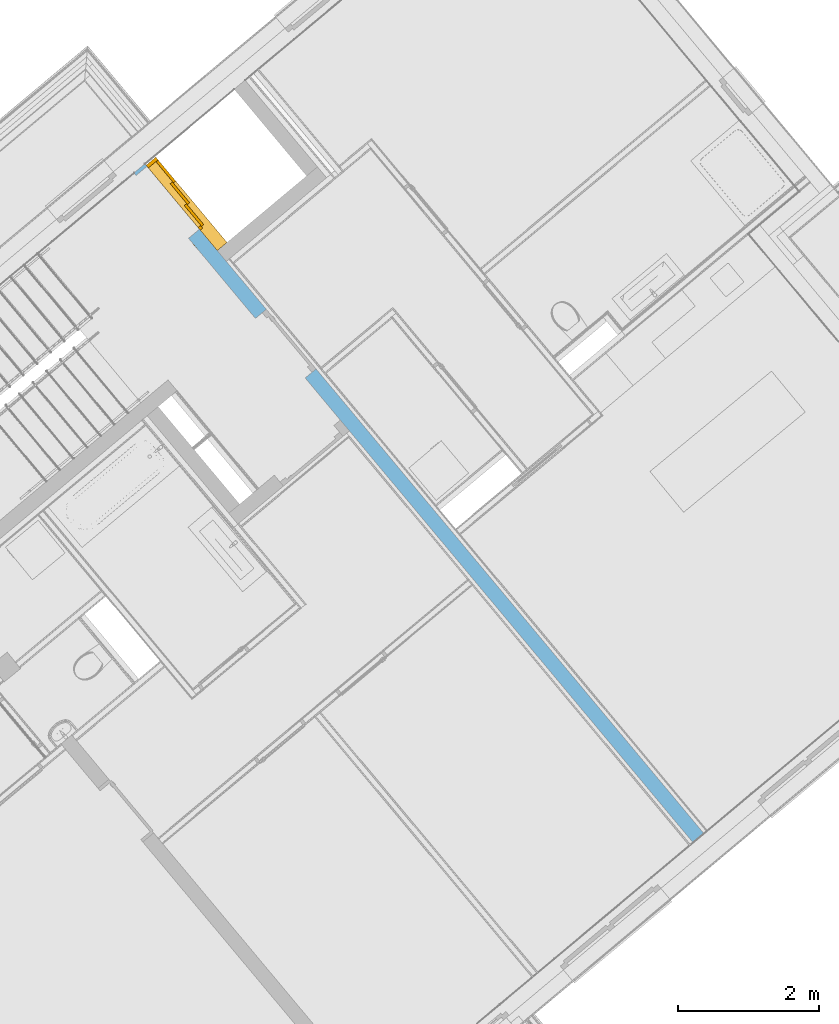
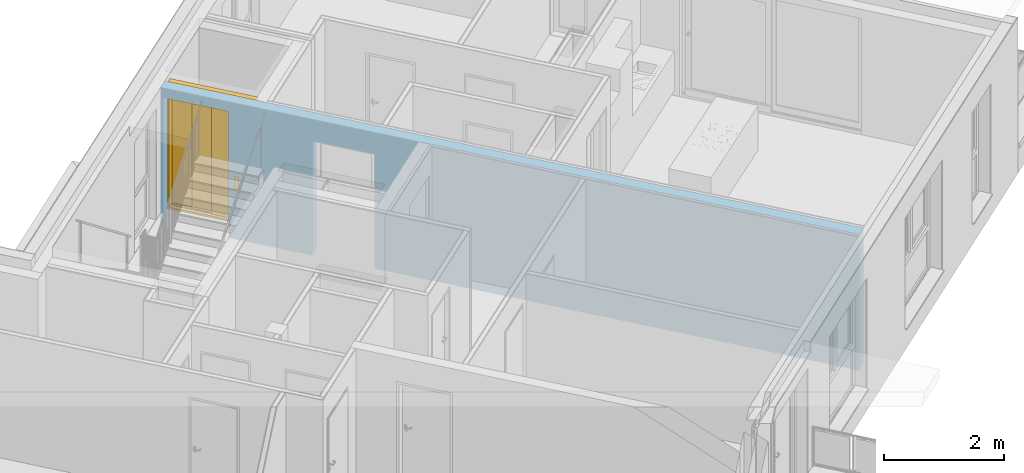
# One storey, part 9 of 53: 1 door, 2 openings, plus 1 element that does not belong to this part.
"""IFC4 building model written with IfcOpenShell, lengths in metres."""

from ifc_helpers import new_model, entity, si_unit, converted_unit, derived_unit, direction, frame, origin_with_axes, place, context, subcontext, project, spatial, polygons, source, transform, mapped, material, type_object, element, fill, save


model = new_model("IFC4")

# Units and contexts
model_context = context("Model", 3, precision=1e-05, world=origin_with_axes(), true_north=direction((0.0, 1.0)))
body_context = subcontext(model_context, "Body", "Model", "MODEL_VIEW")
ifc_project = project(units=[si_unit("LENGTHUNIT", "METRE"), si_unit("AREAUNIT", "SQUARE_METRE"), si_unit("VOLUMEUNIT", "CUBIC_METRE"), converted_unit("PLANEANGLEUNIT", "DEGREE", entity("IfcPlaneAngleMeasure", 0.0174532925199), si_unit("PLANEANGLEUNIT", "RADIAN"), dimensions=[0, 0, 0, 0, 0, 0, 0]), converted_unit("TIMEUNIT", "Year", entity("IfcTimeMeasure", 31556926.0), si_unit("TIMEUNIT", "SECOND"), dimensions=[0, 0, 1, 0, 0, 0, 0]), si_unit("MASSUNIT", "GRAM", prefix="KILO"), si_unit("THERMODYNAMICTEMPERATUREUNIT", "DEGREE_CELSIUS"), si_unit("LUMINOUSINTENSITYUNIT", "LUMEN"), si_unit("ENERGYUNIT", "JOULE", prefix="MEGA"), derived_unit("THERMALCONDUCTANCEUNIT", [(si_unit("POWERUNIT", "WATT"), 1), (si_unit("LENGTHUNIT", "METRE"), -1), (si_unit("THERMODYNAMICTEMPERATUREUNIT", "KELVIN"), -1)]), derived_unit("SPECIFICHEATCAPACITYUNIT", [(si_unit("ENERGYUNIT", "JOULE"), 1), (si_unit("MASSUNIT", "GRAM", prefix="KILO"), -1), (si_unit("THERMODYNAMICTEMPERATUREUNIT", "KELVIN"), -1)]), derived_unit("MASSDENSITYUNIT", [(si_unit("MASSUNIT", "GRAM", prefix="KILO"), 1), (si_unit("VOLUMEUNIT", "CUBIC_METRE"), -1)])], contexts=[model_context])

# Site, building, storey
site_placement = place(None, frame((-0.00153261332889, -0.00661245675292, 0.0), z_axis=(0.0, 0.0, 1.0), x_axis=(1.0, 0.0, 0.0)))
site = spatial("IfcSite", under=ifc_project, at=site_placement, Name="Gelände", CompositionType="ELEMENT")
building_placement = place(site_placement, origin_with_axes())
building = spatial("IfcBuilding", under=site, at=building_placement, Name="Gebäude", CompositionType="ELEMENT")
storey_placement = place(building_placement, frame((0.0, 0.0, 2.74), z_axis=(0.0, 0.0, 1.0), x_axis=(1.0, 0.0, 0.0)))
storey = spatial("IfcBuildingStorey", under=building, at=storey_placement, Name="OG1", CompositionType="ELEMENT", Elevation=2.74)

# Wall, openings, door
ifc_material = material(Name="Stahlbeton Wand")
wall_type = type_object("IfcWallType", Name="Stahlbeton Wand 200", PredefinedType="NOTDEFINED")
wall_placement = place(storey_placement, frame((8.26096619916, 16.5219342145, 0.0), z_axis=(0.0, 0.0, 1.0), x_axis=(-0.640845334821, 0.767670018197, 0.0)))
wall = element("IfcWall", 1, at=wall_placement, inside=storey, type_object=wall_type, material=ifc_material, Name="Wand-003", PredefinedType="NOTDEFINED", context=body_context, shape_type="Tessellation", body=[
    polygons([(12.3191850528, 4.58202684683e-08, 2.57), (12.3191850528, 9.38576505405e-09, 0.22), (12.3191850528, 9.38576505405e-09, 0.0), (12.3653297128, 0.0, 0.0), (12.3653297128, 0.0, 2.76), (0.0, 0.0, 2.76), (0.0, 0.0, 0.0), (8.58020969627, 4.58202684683e-08, 0.0), (8.58020969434, 4.58202684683e-08, 0.22), (8.58020969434, 4.5820272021e-08, 2.32), (9.68020969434, 4.5820272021e-08, 2.32), (9.68020969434, 1.84487696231e-08, 0.22), (9.68020969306, 1.84487696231e-08, 0.0), (11.1591850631, 4.1292480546e-10, 0.0), (11.1591850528, 4.1292480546e-10, 0.22), (11.1591850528, 4.5820272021e-08, 2.57), (12.3191850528, 0.2, 2.57), (12.3191850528, 0.2, 0.22), (12.3191850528, 0.2, 0.0), (12.3652348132, 0.2, 0.0), (12.3652348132, 0.2, 2.76), (0.0, 0.2, 2.76), (0.0, 0.2, 0.0), (8.58020969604, 0.2, 0.0), (8.58020969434, 0.2, 0.22), (8.58020969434, 0.075, 0.22), (8.58020969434, 0.2, 2.32), (9.68020969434, 0.2, 2.32), (9.68020969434, 0.2, 0.22), (9.68020969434, 0.075, 0.22), (9.68020969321, 0.2, 0.0), (11.1591850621, 0.2, 0.0), (11.1591850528, 0.2, 0.22), (11.1591850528, 0.2, 2.57)], [[[1, 2, 3, 4, 5, 6, 7, 8, 9, 10, 11, 12, 13, 14, 15, 16]], [[2, 1, 17, 18]], [[2, 18, 19, 3]], [[20, 4, 3, 19]], [[20, 21, 5, 4]], [[21, 22, 6, 5]], [[23, 7, 6, 22]], [[7, 23, 24, 8]], [[8, 24, 25, 26, 9]], [[26, 25, 27, 10, 9]], [[10, 27, 28, 11]], [[11, 28, 29, 30, 12]], [[29, 31, 13, 12, 30]], [[13, 31, 32, 14]], [[33, 15, 14, 32]], [[16, 15, 33, 34]], [[1, 16, 34, 17]], [[34, 33, 32, 31, 29, 28, 27, 25, 24, 23, 22, 21, 20, 19, 18, 17]]], closed=True),
])
opening_1_placement = place(wall_placement, frame((9.13020969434, 0.0, 0.22), z_axis=(0.0, 0.0, 1.0), x_axis=(1.0, 0.0, 0.0)))
element("IfcOpeningElement", 2, at=opening_1_placement, cuts=wall, Name="Tür-001", context=body_context, identifier="Reference", shape_type="Tessellation", body=[
    polygons([(-0.55, 0.075, -0.22), (-0.55, 0.075, 2.1), (-0.55, 6.48838227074, 2.1), (-0.55, 6.48838227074, -0.22), (-0.55, -6.28838227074, -0.22), (-0.55, -6.28838227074, 2.1), (0.55, 0.075, 2.1), (0.55, 6.48838227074, 2.1), (0.55, -6.28838227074, 2.1), (0.55, 6.48838227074, -0.22), (0.55, 0.075, -0.22), (0.55, -6.28838227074, -0.22)], [[[1, 2, 3, 4]], [[2, 1, 5, 6]], [[7, 8, 3, 2, 6, 9]], [[8, 10, 4, 3]], [[1, 4, 10, 11, 12, 5]], [[6, 5, 12, 9]], [[7, 11, 10, 8]], [[11, 7, 9, 12]]], closed=True),
])
opening_2_placement = place(wall_placement, frame((11.7391850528, 0.0, 0.22), z_axis=(0.0, 0.0, 1.0), x_axis=(1.0, 0.0, 0.0)))
opening_2 = element("IfcOpeningElement", 3, at=opening_2_placement, cuts=wall, Name="Tür-003", context=body_context, identifier="Reference", shape_type="Tessellation", body=[
    polygons([(0.58, 6.48838227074, 2.35), (0.58, 6.48838227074, -0.22), (-0.58, 6.48838227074, -0.22), (-0.58, 6.48838227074, 2.35), (0.58, -6.28838227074, 2.35), (0.58, -6.28838227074, -0.22), (-0.58, -6.28838227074, -0.22), (-0.58, -6.28838227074, 2.35)], [[[1, 2, 3, 4]], [[5, 6, 2, 1]], [[6, 7, 3, 2]], [[7, 8, 4, 3]], [[8, 5, 1, 4]], [[7, 6, 5, 8]]], closed=True),
])
door_type = type_object("IfcDoorType", Name="Teleskoptür 26", OperationType="DOUBLE_DOOR_SLIDING", PredefinedType="NOTDEFINED")
shared_shape = source(origin_with_axes(), body_context, "Body", "Tessellation", [
    polygons([(0.975, 0.135, 2.2), (-0.6, 0.135, 2.2), (-0.6, 0.135, 2.238), (0.975, 0.135, 2.238), (0.975, 0.0, 2.2), (-0.6, 0.0, 2.2), (-0.6, 0.0, 2.48), (-0.6, 0.18, 2.48), (-0.6, 0.18, 2.477), (-0.6, 0.003, 2.477), (-0.6, 0.003, 2.203), (-0.6, 0.132, 2.203), (-0.6, 0.132, 2.238), (0.975, 0.132, 2.238), (0.975, 0.132, 2.203), (0.975, 0.003, 2.203), (0.975, 0.003, 2.477), (0.975, 0.18, 2.477), (0.975, 0.18, 2.48), (0.975, 0.0, 2.48)], [[[1, 2, 3, 4]], [[5, 6, 2, 1]], [[2, 6, 7, 8, 9, 10, 11, 12, 13, 3]], [[4, 3, 13, 14]], [[1, 4, 14, 15, 16, 17, 18, 19, 20, 5]], [[20, 7, 6, 5]], [[19, 8, 7, 20]], [[18, 9, 8, 19]], [[17, 10, 9, 18]], [[16, 11, 10, 17]], [[15, 12, 11, 16]], [[14, 13, 12, 15]]], closed=True),
    polygons([(0.975, 0.05, 2.203), (-0.6, 0.05, 2.203), (-0.6, 0.055, 2.203), (0.975, 0.055, 2.203), (0.975, 0.05, 2.44), (-0.6, 0.05, 2.44), (-0.6, 0.055, 2.44), (0.975, 0.055, 2.44)], [[[1, 2, 3, 4]], [[5, 6, 2, 1]], [[2, 6, 7, 3]], [[4, 3, 7, 8]], [[1, 4, 8, 5]], [[8, 7, 6, 5]]], closed=True),
    polygons([(0.975, 0.05, 2.43), (-0.6, 0.05, 2.43), (-0.6, 0.04, 2.43), (0.975, 0.04, 2.43), (0.975, 0.05, 2.37), (-0.6, 0.05, 2.37), (-0.6, 0.04, 2.37), (0.975, 0.04, 2.37)], [[[1, 2, 3, 4]], [[5, 6, 2, 1]], [[2, 6, 7, 3]], [[4, 3, 7, 8]], [[1, 4, 8, 5]], [[8, 7, 6, 5]]], closed=True),
    polygons([(0.975, 0.05, 2.3), (-0.6, 0.05, 2.3), (-0.6, 0.04, 2.3), (0.975, 0.04, 2.3), (0.975, 0.05, 2.26), (-0.6, 0.05, 2.26), (-0.6, 0.04, 2.26), (0.975, 0.04, 2.26)], [[[1, 2, 3, 4]], [[5, 6, 2, 1]], [[2, 6, 7, 3]], [[4, 3, 7, 8]], [[1, 4, 8, 5]], [[8, 7, 6, 5]]], closed=True),
    polygons([(0.975, 0.05, 2.37), (-0.6, 0.05, 2.37), (-0.6, 0.03, 2.37), (0.975, 0.03, 2.37), (0.975, 0.05, 2.3), (-0.6, 0.05, 2.3), (-0.6, 0.03, 2.3), (0.975, 0.03, 2.3)], [[[1, 2, 3, 4]], [[5, 6, 2, 1]], [[2, 6, 7, 3]], [[4, 3, 7, 8]], [[1, 4, 8, 5]], [[8, 7, 6, 5]]], closed=True),
    polygons([(0.975, 0.095, 2.203), (-0.6, 0.095, 2.203), (-0.6, 0.1, 2.203), (0.975, 0.1, 2.203), (0.975, 0.095, 2.44), (-0.6, 0.095, 2.44), (-0.6, 0.1, 2.44), (0.975, 0.1, 2.44)], [[[1, 2, 3, 4]], [[5, 6, 2, 1]], [[2, 6, 7, 3]], [[4, 3, 7, 8]], [[1, 4, 8, 5]], [[8, 7, 6, 5]]], closed=True),
    polygons([(0.975, 0.095, 2.43), (-0.6, 0.095, 2.43), (-0.6, 0.085, 2.43), (0.975, 0.085, 2.43), (0.975, 0.095, 2.37), (-0.6, 0.095, 2.37), (-0.6, 0.085, 2.37), (0.975, 0.085, 2.37)], [[[1, 2, 3, 4]], [[5, 6, 2, 1]], [[2, 6, 7, 3]], [[4, 3, 7, 8]], [[1, 4, 8, 5]], [[8, 7, 6, 5]]], closed=True),
    polygons([(0.975, 0.095, 2.3), (-0.6, 0.095, 2.3), (-0.6, 0.085, 2.3), (0.975, 0.085, 2.3), (0.975, 0.095, 2.26), (-0.6, 0.095, 2.26), (-0.6, 0.085, 2.26), (0.975, 0.085, 2.26)], [[[1, 2, 3, 4]], [[5, 6, 2, 1]], [[2, 6, 7, 3]], [[4, 3, 7, 8]], [[1, 4, 8, 5]], [[8, 7, 6, 5]]], closed=True),
    polygons([(0.975, 0.095, 2.37), (-0.6, 0.095, 2.37), (-0.6, 0.075, 2.37), (0.975, 0.075, 2.37), (0.975, 0.095, 2.3), (-0.6, 0.095, 2.3), (-0.6, 0.075, 2.3), (0.975, 0.075, 2.3)], [[[1, 2, 3, 4]], [[5, 6, 2, 1]], [[2, 6, 7, 3]], [[4, 3, 7, 8]], [[1, 4, 8, 5]], [[8, 7, 6, 5]]], closed=True),
    polygons([(0.975, 0.14, 2.203), (-0.6, 0.14, 2.203), (-0.6, 0.145, 2.203), (0.975, 0.145, 2.203), (0.975, 0.14, 2.44), (-0.6, 0.14, 2.44), (-0.6, 0.145, 2.44), (0.975, 0.145, 2.44)], [[[1, 2, 3, 4]], [[5, 6, 2, 1]], [[2, 6, 7, 3]], [[4, 3, 7, 8]], [[1, 4, 8, 5]], [[8, 7, 6, 5]]], closed=True),
    polygons([(0.975, 0.14, 2.43), (-0.6, 0.14, 2.43), (-0.6, 0.13, 2.43), (0.975, 0.13, 2.43), (0.975, 0.14, 2.37), (-0.6, 0.14, 2.37), (-0.6, 0.13, 2.37), (0.975, 0.13, 2.37)], [[[1, 2, 3, 4]], [[5, 6, 2, 1]], [[2, 6, 7, 3]], [[4, 3, 7, 8]], [[1, 4, 8, 5]], [[8, 7, 6, 5]]], closed=True),
    polygons([(0.975, 0.14, 2.3), (-0.6, 0.14, 2.3), (-0.6, 0.13, 2.3), (0.975, 0.13, 2.3), (0.975, 0.14, 2.26), (-0.6, 0.14, 2.26), (-0.6, 0.13, 2.26), (0.975, 0.13, 2.26)], [[[1, 2, 3, 4]], [[5, 6, 2, 1]], [[2, 6, 7, 3]], [[4, 3, 7, 8]], [[1, 4, 8, 5]], [[8, 7, 6, 5]]], closed=True),
    polygons([(0.975, 0.14, 2.37), (-0.6, 0.14, 2.37), (-0.6, 0.12, 2.37), (0.975, 0.12, 2.37), (0.975, 0.14, 2.3), (-0.6, 0.14, 2.3), (-0.6, 0.12, 2.3), (0.975, 0.12, 2.3)], [[[1, 2, 3, 4]], [[5, 6, 2, 1]], [[2, 6, 7, 3]], [[4, 3, 7, 8]], [[1, 4, 8, 5]], [[8, 7, 6, 5]]], closed=True),
    polygons([(0.975, 0.0, 0.0), (-0.6, 0.0, 0.0), (-0.6, 0.0, -0.04), (0.975, 0.0, -0.04), (0.975, 0.065, 0.0), (-0.6, 0.065, 0.0), (-0.6, 0.065, -0.01), (-0.6, 0.075, -0.01), (-0.6, 0.075, 0.0), (-0.6, 0.11, 0.0), (-0.6, 0.11, -0.01), (-0.6, 0.12, -0.01), (-0.6, 0.12, 0.0), (-0.6, 0.155, 0.0), (-0.6, 0.155, -0.01), (-0.6, 0.165, -0.01), (-0.6, 0.165, 0.0), (-0.6, 0.18, 0.0), (-0.6, 0.18, -0.04), (0.975, 0.18, -0.04), (0.975, 0.18, 0.0), (0.975, 0.165, 0.0), (0.975, 0.165, -0.01), (0.975, 0.155, -0.01), (0.975, 0.155, 0.0), (0.975, 0.12, 0.0), (0.975, 0.12, -0.01), (0.975, 0.11, -0.01), (0.975, 0.11, 0.0), (0.975, 0.075, 0.0), (0.975, 0.075, -0.01), (0.975, 0.065, -0.01)], [[[1, 2, 3, 4]], [[5, 6, 2, 1]], [[2, 6, 7, 8, 9, 10, 11, 12, 13, 14, 15, 16, 17, 18, 19, 3]], [[4, 3, 19, 20]], [[1, 4, 20, 21, 22, 23, 24, 25, 26, 27, 28, 29, 30, 31, 32, 5]], [[32, 7, 6, 5]], [[31, 8, 7, 32]], [[30, 9, 8, 31]], [[29, 10, 9, 30]], [[28, 11, 10, 29]], [[27, 12, 11, 28]], [[26, 13, 12, 27]], [[25, 14, 13, 26]], [[24, 15, 14, 25]], [[23, 16, 15, 24]], [[22, 17, 16, 23]], [[21, 18, 17, 22]], [[20, 19, 18, 21]]], closed=True),
    polygons([(0.55, 0.0, 0.0), (0.55, 0.0, 2.2), (0.55, 0.045, 2.2), (0.55, 0.045, 0.0), (0.6, 0.0, 0.0), (0.6, 0.0, 2.2), (0.6, 0.045, 2.2), (0.6, 0.045, 0.0)], [[[1, 2, 3, 4]], [[5, 6, 2, 1]], [[2, 6, 7, 3]], [[4, 3, 7, 8]], [[1, 4, 8, 5]], [[8, 7, 6, 5]]], closed=True),
    polygons([(-0.6, 0.0, 0.0), (-0.6, 0.0, 2.2), (-0.6, 0.18, 2.2), (-0.6, 0.18, 0.0), (-0.55, 0.0, 0.0), (-0.55, 0.0, 2.2), (-0.55, 0.18, 2.2), (-0.55, 0.18, 0.0)], [[[1, 2, 3, 4]], [[5, 6, 2, 1]], [[2, 6, 7, 3]], [[4, 3, 7, 8]], [[1, 4, 8, 5]], [[8, 7, 6, 5]]], closed=True),
    polygons([(0.68, -0.2, 0.8), (0.76, -0.2, 0.8), (0.76, -0.203, 0.8), (0.68, -0.203, 0.8), (0.68, -0.2, 1.06), (0.76, -0.2, 1.06), (0.69, -0.2, 1.03), (0.69, -0.2, 0.94), (0.75, -0.2, 0.94), (0.75, -0.2, 1.03), (0.71, -0.2, 0.84), (0.73, -0.2, 0.84), (0.73, -0.2, 0.86), (0.71, -0.2, 0.86), (0.71, -0.2, 0.88), (0.73, -0.2, 0.88), (0.73, -0.2, 0.9), (0.71, -0.2, 0.9), (0.76, -0.203, 1.06), (0.68, -0.203, 1.06), (0.69, -0.203, 1.03), (0.75, -0.203, 1.03), (0.75, -0.203, 0.94), (0.69, -0.203, 0.94), (0.71, -0.203, 0.84), (0.71, -0.203, 0.86), (0.73, -0.203, 0.86), (0.73, -0.203, 0.84), (0.71, -0.203, 0.88), (0.71, -0.203, 0.9), (0.73, -0.203, 0.9), (0.73, -0.203, 0.88)], [[[1, 2, 3, 4]], [[1, 5, 6, 2], [7, 8, 9, 10], [11, 12, 13, 14], [15, 16, 17, 18]], [[2, 6, 19, 3]], [[4, 3, 19, 20], [21, 22, 23, 24], [25, 26, 27, 28], [29, 30, 31, 32]], [[5, 1, 4, 20]], [[6, 5, 20, 19]], [[8, 7, 21, 24]], [[9, 8, 24, 23]], [[10, 9, 23, 22]], [[7, 10, 22, 21]], [[12, 11, 25, 28]], [[13, 12, 28, 27]], [[14, 13, 27, 26]], [[11, 14, 26, 25]], [[16, 15, 29, 32]], [[17, 16, 32, 31]], [[18, 17, 31, 30]], [[15, 18, 30, 29]]], closed=True),
    polygons([(0.69, -0.2, 0.94), (0.75, -0.2, 0.94), (0.75, -0.2025, 0.94), (0.69, -0.2025, 0.94), (0.69, -0.2, 1.03), (0.75, -0.2, 1.03), (0.75, -0.2025, 1.03), (0.69, -0.2025, 1.03)], [[[1, 2, 3, 4]], [[1, 5, 6, 2]], [[2, 6, 7, 3]], [[4, 3, 7, 8]], [[5, 1, 4, 8]], [[6, 5, 8, 7]]], closed=True),
    polygons([(0.704, -0.203, 1.005), (0.71, -0.203, 1.021), (0.716, -0.203, 1.005)], [[[1, 2, 3]]], closed=False),
    polygons([(0.73, -0.203, 1.005), (0.724, -0.203, 1.021), (0.736, -0.203, 1.021)], [[[1, 2, 3]]], closed=False),
    polygons([(0.717272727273, -0.2035, 0.982), (0.717272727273, -0.2035, 0.971636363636), (0.715909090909, -0.2035, 0.970272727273), (0.714545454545, -0.2035, 0.971636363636), (0.714545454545, -0.2035, 0.982), (0.715909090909, -0.2035, 0.983363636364)], [[[1, 2, 3, 4, 5, 6]]], closed=False),
    polygons([(0.717272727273, -0.2035, 0.968363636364), (0.717272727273, -0.2035, 0.958), (0.715909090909, -0.2035, 0.956636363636), (0.714545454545, -0.2035, 0.958), (0.714545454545, -0.2035, 0.968363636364), (0.715909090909, -0.2035, 0.969727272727)], [[[1, 2, 3, 4, 5, 6]]], closed=False),
    polygons([(0.736090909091, -0.2035, 0.982272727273), (0.725727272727, -0.2035, 0.982272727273), (0.724363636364, -0.2035, 0.983636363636), (0.725727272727, -0.2035, 0.985), (0.736090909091, -0.2035, 0.985), (0.737454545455, -0.2035, 0.983636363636)], [[[1, 2, 3, 4, 5, 6]]], closed=False),
    polygons([(0.739090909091, -0.2035, 0.982), (0.739090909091, -0.2035, 0.971636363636), (0.737727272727, -0.2035, 0.970272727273), (0.736363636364, -0.2035, 0.971636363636), (0.736363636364, -0.2035, 0.982), (0.737727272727, -0.2035, 0.983363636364)], [[[1, 2, 3, 4, 5, 6]]], closed=False),
    polygons([(0.736090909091, -0.2035, 0.968636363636), (0.725727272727, -0.2035, 0.968636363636), (0.724363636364, -0.2035, 0.97), (0.725727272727, -0.2035, 0.971363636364), (0.736090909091, -0.2035, 0.971363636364), (0.737454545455, -0.2035, 0.97)], [[[1, 2, 3, 4, 5, 6]]], closed=False),
    polygons([(0.725454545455, -0.2035, 0.968363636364), (0.725454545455, -0.2035, 0.958), (0.724090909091, -0.2035, 0.956636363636), (0.722727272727, -0.2035, 0.958), (0.722727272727, -0.2035, 0.968363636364), (0.724090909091, -0.2035, 0.969727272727)], [[[1, 2, 3, 4, 5, 6]]], closed=False),
    polygons([(0.736090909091, -0.2035, 0.955), (0.725727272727, -0.2035, 0.955), (0.724363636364, -0.2035, 0.956363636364), (0.725727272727, -0.2035, 0.957727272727), (0.736090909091, -0.2035, 0.957727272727), (0.737454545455, -0.2035, 0.956363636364)], [[[1, 2, 3, 4, 5, 6]]], closed=False),
    polygons([(0.73, -0.2, 0.84), (0.71, -0.2, 0.84), (0.71, -0.2, 0.86), (0.73, -0.2, 0.86), (0.730000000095, -0.2015, 0.83999999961), (0.70999999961, -0.2015, 0.83999999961), (0.70999999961, -0.2015, 0.860000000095), (0.730000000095, -0.2015, 0.860000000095), (0.728599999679, -0.202900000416, 0.841400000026), (0.711400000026, -0.202900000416, 0.841400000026), (0.711400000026, -0.202900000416, 0.858599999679), (0.728599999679, -0.202900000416, 0.858599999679)], [[[1, 2, 3, 4]], [[2, 1, 5, 6]], [[3, 2, 6, 7]], [[4, 3, 7, 8]], [[1, 4, 8, 5]], [[6, 5, 9, 10]], [[7, 6, 10, 11]], [[8, 7, 11, 12]], [[5, 8, 12, 9]], [[11, 10, 9, 12]]], closed=True),
    polygons([(0.725, -0.203, 0.855), (0.72, -0.203, 0.844), (0.715, -0.203, 0.855)], [[[1, 2, 3]]], closed=False),
    polygons([(0.73, -0.2, 0.88), (0.71, -0.2, 0.88), (0.71, -0.2, 0.9), (0.73, -0.2, 0.9), (0.730000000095, -0.2015, 0.87999999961), (0.70999999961, -0.2015, 0.87999999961), (0.70999999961, -0.2015, 0.900000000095), (0.730000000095, -0.2015, 0.900000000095), (0.728599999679, -0.202900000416, 0.881400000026), (0.711400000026, -0.202900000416, 0.881400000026), (0.711400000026, -0.202900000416, 0.898599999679), (0.728599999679, -0.202900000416, 0.898599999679)], [[[1, 2, 3, 4]], [[2, 1, 5, 6]], [[3, 2, 6, 7]], [[4, 3, 7, 8]], [[1, 4, 8, 5]], [[6, 5, 9, 10]], [[7, 6, 10, 11]], [[8, 7, 11, 12]], [[5, 8, 12, 9]], [[11, 10, 9, 12]]], closed=True),
    polygons([(0.725, -0.203, 0.885), (0.715, -0.203, 0.885), (0.72, -0.203, 0.896)], [[[1, 2, 3]]], closed=False),
    polygons([(-0.16, 0.14, 0.003), (-0.545, 0.14, 0.003), (-0.545, 0.18, 0.003), (-0.16, 0.18, 0.003), (-0.16, 0.14, 2.2), (-0.545, 0.14, 2.2), (-0.545, 0.18, 2.2), (-0.16, 0.18, 2.2)], [[[1, 2, 3, 4]], [[1, 5, 6, 2]], [[2, 6, 7, 3]], [[4, 3, 7, 8]], [[5, 1, 4, 8]], [[6, 5, 8, 7]]], closed=True),
    polygons([(0.205, 0.095, 0.003), (-0.18, 0.095, 0.003), (-0.18, 0.135, 0.003), (0.205, 0.135, 0.003), (0.205, 0.095, 2.2), (-0.18, 0.095, 2.2), (-0.18, 0.135, 2.2), (0.205, 0.135, 2.2)], [[[1, 2, 3, 4]], [[1, 5, 6, 2]], [[2, 6, 7, 3]], [[4, 3, 7, 8]], [[5, 1, 4, 8]], [[6, 5, 8, 7]]], closed=True),
    polygons([(0.57, 0.05, 0.003), (0.185, 0.05, 0.003), (0.185, 0.09, 0.003), (0.57, 0.09, 0.003), (0.57, 0.05, 2.2), (0.185, 0.05, 2.2), (0.185, 0.09, 2.2), (0.57, 0.09, 2.2)], [[[1, 2, 3, 4]], [[1, 5, 6, 2]], [[2, 6, 7, 3]], [[4, 3, 7, 8]], [[5, 1, 4, 8]], [[6, 5, 8, 7]]], closed=True),
])
door_placement = place(opening_2_placement, frame((0.55, 0.0, 0.0), z_axis=(0.0, 0.0, 1.0), x_axis=(-1.0, 0.0, 0.0)))
door = element("IfcDoor", 4, at=door_placement, inside=storey, type_object=door_type, Name="Tür-003", OverallHeight=2.57, OverallWidth=1.16, PredefinedType="NOTDEFINED", context=body_context, shape_type="MappedRepresentation", body=[
    mapped(shared_shape, transform((0.55, 0.0, 0.0))),
])
fill(opening_2, door)

save(model, "model.ifc")
